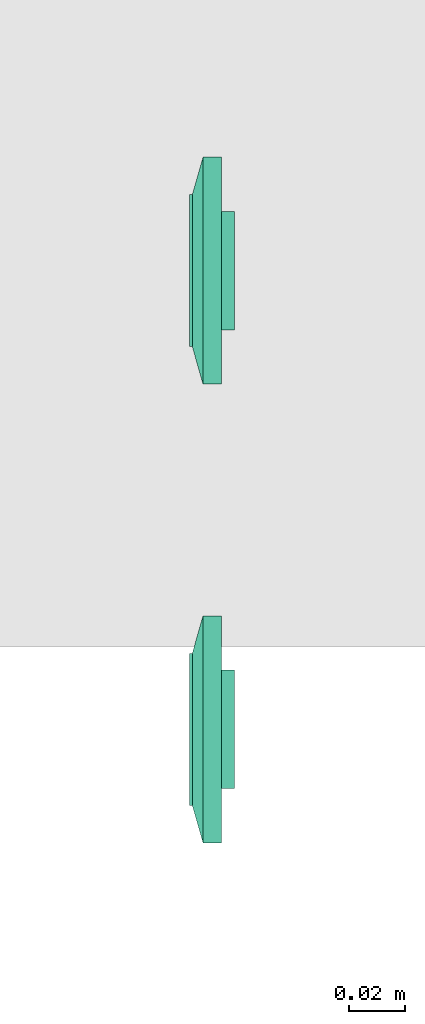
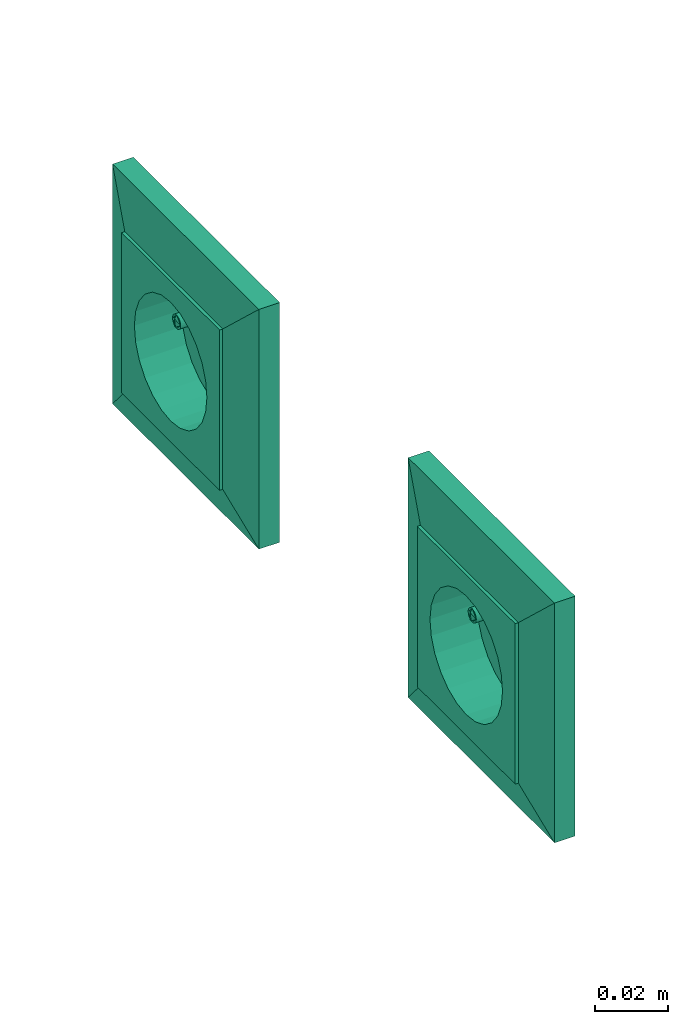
# One storey, part 37 of 146: 2 flow terminals.
"""IFC2X3 building model written with IfcOpenShell, lengths in metres."""

import ifcopenshell
import ifcopenshell.guid

model = None  # the IFC model being written
_history = None  # IfcOwnerHistory: only IFC2X3 demands one
_inside = {}  # id of a spatial element -> (the spatial element, [elements in it])
_under = {}  # id of a project, library or spatial element -> (it, [spatial elements below it])
_declared = {}  # id of a project -> (the project, [libraries it declares])
_typed = {}  # id of a type object -> (the type object, [elements of that type])
_made_of = {}  # id of a material, layer set ... -> (it, [elements and type objects made of it])


def new_model(schema):
    """Start an empty IFC model of exactly this schema.

    Asked for "IFC4X3", IfcOpenShell would pick the latest addendum, in which some entities
    have other attributes; the version numbers below select the first issue.
    IFC2X3 requires an IfcOwnerHistory on every rooted entity: one is made here for all.
    """
    global model, _history
    if schema == "IFC4X3":
        model = ifcopenshell.file(schema_version=(4, 3, 0, 0))
    else:
        model = ifcopenshell.file(schema=schema)
    _inside.clear()
    _under.clear()
    _declared.clear()
    _typed.clear()
    _made_of.clear()
    _history = None
    if model.schema == "IFC2X3":
        org = make("IfcOrganization", Name="unknown")
        user = make(
            "IfcPersonAndOrganization",
            ThePerson=make("IfcPerson", FamilyName="unknown"),
            TheOrganization=org,
        )
        app = make(
            "IfcApplication",
            ApplicationDeveloper=org,
            Version="unknown",
            ApplicationFullName="unknown",
            ApplicationIdentifier="unknown",
        )
        _history = make(
            "IfcOwnerHistory",
            OwningUser=user,
            OwningApplication=app,
            ChangeAction="ADDED",
            CreationDate=0,
        )
    return model


def make(cls, **values):
    """One entity of the class cls with the attributes given. An attribute that is None is left unset."""
    return model.create_entity(
        cls, **{name: value for name, value in values.items() if value is not None}
    )


def entity(cls, *values):
    """Any entity or typed value of the class cls, its attributes in the order of the schema. None: left unset."""
    e = model.create_entity(cls)
    for i, value in enumerate(values):
        if value is not None:
            e[i] = value
    return e


def rooted(cls, **values):
    """An entity with a GlobalId (a new one), such as an element, a storey or a relation."""
    return make(cls, GlobalId=ifcopenshell.guid.new(), OwnerHistory=_history, **values)


def si_unit(unit_type, name, prefix=None):
    """IfcSIUnit, for example si_unit("LENGTHUNIT", "METRE", prefix="MILLI")."""
    return make("IfcSIUnit", UnitType=unit_type, Prefix=prefix, Name=name)


def converted_unit(unit_type, name, factor, base, dimensions=None, offset=None):
    """IfcConversionBasedUnit, such as the inch: factor (a typed value) times the base unit."""
    return make(
        "IfcConversionBasedUnit"
        if offset is None
        else "IfcConversionBasedUnitWithOffset",
        ConversionOffset=offset,
        Dimensions=None
        if dimensions is None
        else entity("IfcDimensionalExponents", *dimensions),
        UnitType=unit_type,
        Name=name,
        ConversionFactor=make(
            "IfcMeasureWithUnit", ValueComponent=factor, UnitComponent=base
        ),
    )


def derived_unit(unit_type, elements):
    """IfcDerivedUnit: a product of units, each with its exponent."""
    return make(
        "IfcDerivedUnit",
        Elements=[
            make("IfcDerivedUnitElement", Unit=unit, Exponent=power)
            for unit, power in elements
        ],
        UnitType=unit_type,
    )


def assignment(units):
    """IfcUnitAssignment: the units of a project."""
    return None if units is None else make("IfcUnitAssignment", Units=units)


def point(xyz):
    """IfcCartesianPoint."""
    return None if xyz is None else make("IfcCartesianPoint", Coordinates=xyz)


def direction(xyz):
    """IfcDirection."""
    return None if xyz is None else make("IfcDirection", DirectionRatios=xyz)


def frame(location, z_axis=None, x_axis=None):
    """IfcAxis2Placement3D, a coordinate frame: its origin and axes. An axis left out is left unset."""
    return make(
        "IfcAxis2Placement3D",
        Location=point(location),
        Axis=direction(z_axis),
        RefDirection=direction(x_axis),
    )


def origin():
    """The frame at (0, 0, 0) with its axes left unset."""
    return frame((0.0, 0.0, 0.0))


def place(relative_to, where):
    """IfcLocalPlacement: puts the frame where relative to a parent placement (None: the world)."""
    return make(
        "IfcLocalPlacement", PlacementRelTo=relative_to, RelativePlacement=where
    )


def context(
    kind, dimensions, precision=None, world=None, true_north=None, identifier=None
):
    """IfcGeometricRepresentationContext, for example the 3D "Model" context."""
    return make(
        "IfcGeometricRepresentationContext",
        ContextIdentifier=identifier,
        ContextType=kind,
        CoordinateSpaceDimension=dimensions,
        Precision=precision,
        WorldCoordinateSystem=world,
        TrueNorth=true_north,
    )


def subcontext(parent, identifier, kind, view, scale=None):
    """IfcGeometricRepresentationSubContext, for example "Body" below "Model"."""
    return make(
        "IfcGeometricRepresentationSubContext",
        ContextIdentifier=identifier,
        ContextType=kind,
        ParentContext=parent,
        TargetScale=scale,
        TargetView=view,
    )


def project(units=None, contexts=None):
    """IfcProject with its units and contexts."""
    return rooted(
        "IfcProject",
        Name="project",
        RepresentationContexts=contexts,
        UnitsInContext=assignment(units),
    )


def spatial(cls, under=None, at=None, **own):
    """A site, building, storey or space (cls), placed at a placement, below another one or the project."""
    s = rooted(cls, ObjectPlacement=at, **own)
    if under is not None:
        _under.setdefault(under.id(), (under, []))[1].append(s)
    return s


def faces_of(points, faces, orient=None, outer=None):
    """IfcFace entities. A face is a list of loops; a loop is a list of indices into points, from 0.

    orient and outer hold one flag for each loop. By default every Orientation is true, the
    first loop of a face is its IfcFaceOuterBound and the others are IfcFaceBound.
    """
    made = []
    for i, loops in enumerate(faces):
        bounds = []
        for j, loop in enumerate(loops):
            is_outer = j == 0 if outer is None else outer[i][j]
            bounds.append(
                make(
                    "IfcFaceOuterBound" if is_outer else "IfcFaceBound",
                    Bound=make("IfcPolyLoop", Polygon=[points[k] for k in loop]),
                    Orientation=True if orient is None else orient[i][j],
                )
            )
        made.append(make("IfcFace", Bounds=bounds))
    return made


def face_set(faces, orient=None, outer=None):
    """The faces of one IfcConnectedFaceSet. surface_model builds it on its shared points."""
    return ("IfcConnectedFaceSet", faces, orient, outer)


def surface_model(cls, points, shells):
    """IfcFaceBasedSurfaceModel or IfcShellBasedSurfaceModel (cls): surfaces that need not close."""
    shared = [point(p) for p in points]
    made = [make(c, CfsFaces=faces_of(shared, fs, o, b)) for c, fs, o, b in shells]
    if cls == "IfcFaceBasedSurfaceModel":
        return make(cls, FbsmFaces=made)
    return make(cls, SbsmBoundary=made)


def shape(context_of_items, identifier, shape_type, items):
    """IfcShapeRepresentation: the items that make up one representation, for example the "Body"."""
    return make(
        "IfcShapeRepresentation",
        ContextOfItems=context_of_items,
        RepresentationIdentifier=identifier,
        RepresentationType=shape_type,
        Items=items,
    )


def source(mapping_origin, context_of_items, identifier, shape_type, items):
    """IfcRepresentationMap: a shape defined once, which mapped items show again and again."""
    return make(
        "IfcRepresentationMap",
        MappingOrigin=mapping_origin,
        MappedRepresentation=shape(context_of_items, identifier, shape_type, items),
    )


def transform(
    local_origin,
    x_axis=None,
    y_axis=None,
    z_axis=None,
    scale=None,
    scale2=None,
    scale3=None,
    uniform=True,
):
    """IfcCartesianTransformationOperator3D, or its non-uniform kind. x_axis, y_axis, z_axis: its Axis1, 2, 3."""
    if uniform:
        return make(
            "IfcCartesianTransformationOperator3D",
            Axis1=direction(x_axis),
            Axis2=direction(y_axis),
            LocalOrigin=point(local_origin),
            Scale=scale,
            Axis3=direction(z_axis),
        )
    return make(
        "IfcCartesianTransformationOperator3DnonUniform",
        Axis1=direction(x_axis),
        Axis2=direction(y_axis),
        LocalOrigin=point(local_origin),
        Scale=scale,
        Axis3=direction(z_axis),
        Scale2=scale2,
        Scale3=scale3,
    )


def mapped(mapping_source, mapping_target):
    """IfcMappedItem: shows the shape of a source again, moved by a transform."""
    return make(
        "IfcMappedItem", MappingSource=mapping_source, MappingTarget=mapping_target
    )


def made_of(thing, what):
    """Note that an element or type object is made of a material, layer set ...; save() writes the relation."""
    if what is not None:
        _made_of.setdefault(what.id(), (what, []))[1].append(thing)
    return thing


def type_object(cls, material=None, **own):
    """A type object (cls), such as IfcWallType, which elements share."""
    return made_of(rooted(cls, **own), material)


def type_shapes(of_type, sources):
    """Give a type object the sources (RepresentationMaps) that its elements show as mapped items."""
    of_type.RepresentationMaps = sources


def element(
    cls,
    number,
    at=None,
    inside=None,
    cuts=None,
    type_object=None,
    material=None,
    context=None,
    identifier="Body",
    shape_type=None,
    held_by="IfcProductDefinitionShape",
    body=None,
    shapes=None,
    **own,
):
    """One element of the class cls, such as IfcWall. Its Tag is "e" and its number.

    at: its placement. inside: the storey or other place that contains it. cuts: it is an
    opening in that element (IfcRelVoidsElement). A single representation is given by context,
    identifier, shape_type and body (its items); several are given by shapes. held_by: the class
    of the entity that holds the representations. save() writes the other relations.
    """
    e = rooted(cls, Tag="e%d" % number, ObjectPlacement=at, **own)
    if body is not None:
        shapes = [shape(context, identifier, shape_type, body)]
    if shapes is not None:
        e.Representation = make(held_by, Representations=shapes)
    if inside is not None:
        _inside.setdefault(inside.id(), (inside, []))[1].append(e)
    if cuts is not None:
        rooted(
            "IfcRelVoidsElement", RelatingBuildingElement=cuts, RelatedOpeningElement=e
        )
    if type_object is not None:
        _typed.setdefault(type_object.id(), (type_object, []))[1].append(e)
    return made_of(e, material)


def aggregate(whole, parts):
    """IfcRelAggregates: a whole, such as a stair, and the parts it consists of."""
    return rooted("IfcRelAggregates", RelatingObject=whole, RelatedObjects=parts)


def save(model, path):
    """Write the relations noted so far, then the file.

    IfcRelAggregates (storeys below a building ...), IfcRelContainedInSpatialStructure (elements
    in a storey), IfcRelDefinesByType, IfcRelAssociatesMaterial and IfcRelDeclares: one each for
    every whole, place, type object, material and project.
    """
    for whole, parts in _under.values():
        aggregate(whole, parts)
    for where, things in _inside.values():
        rooted(
            "IfcRelContainedInSpatialStructure",
            RelatedElements=things,
            RelatingStructure=where,
        )
    for kind, things in _typed.values():
        rooted("IfcRelDefinesByType", RelatedObjects=things, RelatingType=kind)
    for what, things in _made_of.values():
        rooted("IfcRelAssociatesMaterial", RelatedObjects=things, RelatingMaterial=what)
    for by, libraries in _declared.values():
        rooted("IfcRelDeclares", RelatingContext=by, RelatedDefinitions=libraries)
    model.write(path)


model = new_model("IFC2X3")

# Units and contexts
model_context = context("Model", 3, precision=1e-05, world=origin(), true_north=direction((6.12303176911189e-17, 1.0)))
body_context = subcontext(model_context, "Body", "Model", "MODEL_VIEW")
ifc_project = project(units=[si_unit("LENGTHUNIT", "METRE"), si_unit("AREAUNIT", "SQUARE_METRE"), si_unit("VOLUMEUNIT", "CUBIC_METRE"), converted_unit("PLANEANGLEUNIT", "DEGREE", entity("IfcRatioMeasure", 0.0174532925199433), si_unit("PLANEANGLEUNIT", "RADIAN"), dimensions=[0, 0, 0, 0, 0, 0, 0]), si_unit("MASSUNIT", "GRAM", prefix="KILO"), derived_unit("MASSDENSITYUNIT", [(si_unit("MASSUNIT", "GRAM", prefix="KILO"), 1), (si_unit("LENGTHUNIT", "METRE"), -3)]), si_unit("TIMEUNIT", "SECOND"), si_unit("FREQUENCYUNIT", "HERTZ"), si_unit("THERMODYNAMICTEMPERATUREUNIT", "DEGREE_CELSIUS"), derived_unit("THERMALTRANSMITTANCEUNIT", [(si_unit("MASSUNIT", "GRAM", prefix="KILO"), 1), (si_unit("THERMODYNAMICTEMPERATUREUNIT", "KELVIN"), -1), (si_unit("TIMEUNIT", "SECOND"), -3)]), derived_unit("VOLUMETRICFLOWRATEUNIT", [(si_unit("LENGTHUNIT", "METRE"), 3), (si_unit("TIMEUNIT", "SECOND"), -1)]), si_unit("ELECTRICCURRENTUNIT", "AMPERE"), si_unit("ELECTRICVOLTAGEUNIT", "VOLT"), si_unit("POWERUNIT", "WATT"), si_unit("FORCEUNIT", "NEWTON"), si_unit("ILLUMINANCEUNIT", "LUX"), si_unit("LUMINOUSFLUXUNIT", "LUMEN"), si_unit("LUMINOUSINTENSITYUNIT", "CANDELA"), derived_unit("USERDEFINED", [(si_unit("MASSUNIT", "GRAM", prefix="KILO"), -1), (si_unit("LENGTHUNIT", "METRE"), -2), (si_unit("TIMEUNIT", "SECOND"), 3), (si_unit("LUMINOUSFLUXUNIT", "LUMEN"), 1)]), derived_unit("LINEARVELOCITYUNIT", [(si_unit("LENGTHUNIT", "METRE"), 1), (si_unit("TIMEUNIT", "SECOND"), -1)]), si_unit("PRESSUREUNIT", "PASCAL"), derived_unit("USERDEFINED", [(si_unit("LENGTHUNIT", "METRE"), -2), (si_unit("MASSUNIT", "GRAM", prefix="KILO"), 1), (si_unit("TIMEUNIT", "SECOND"), -2)])], contexts=[model_context])

# Site, building, storey
site_placement = place(None, origin())
site = spatial("IfcSite", under=ifc_project, at=site_placement, Name="Default", CompositionType="ELEMENT")
building_placement = place(site_placement, origin())
building = spatial("IfcBuilding", under=site, at=building_placement, CompositionType="ELEMENT")
storey_placement = place(building_placement, origin())
storey = spatial("IfcBuildingStorey", under=building, at=storey_placement, Name="S01", CompositionType="ELEMENT", Elevation=0.0)

# Flow terminals
light_fixture_type = type_object("IfcLightFixtureType", Name="IP20 ONDULEE", PredefinedType="NOTDEFINED")
shared_shape = source(origin(), body_context, "Body", "SurfaceModel", [
    surface_model("IfcFaceBasedSurfaceModel", [(-0.00225000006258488, 0.0127499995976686, 0.00949633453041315), (0.0, 0.0104999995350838, 0.00949633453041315), (0.0, 0.0115376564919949, 0.0101656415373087), (0.0, 0.0139623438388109, 0.0101656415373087), (0.0, 0.0144589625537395, 0.00984531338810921), (0.0, 0.0121178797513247, 0.0102778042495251), (0.0, 0.0133821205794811, 0.0102778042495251), (0.0, 0.0127499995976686, 0.010399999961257), (0.0, 0.0149999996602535, 0.00949633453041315), (0.00225000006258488, 0.0127499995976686, 0.00949633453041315), (0.0, 0.0110410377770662, 0.00984531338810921), (0.0, 0.0127499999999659, 0.00949633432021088), (0.00225000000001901, 0.0127499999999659, 0.00949633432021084), (0.00217333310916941, 0.0121676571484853, 0.00949633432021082), (0.00194855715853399, 0.0116249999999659, 0.00949633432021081), (0.00159099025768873, 0.0111590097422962, 0.00949633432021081), (0.001125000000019, 0.010801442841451, 0.00949633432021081), (0.00058234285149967, 0.0105766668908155, 0.00949633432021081), (0.0, 0.0104999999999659, 0.00949633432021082), (-0.000582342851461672, 0.0105766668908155, 0.00949633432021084), (-0.001124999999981, 0.010801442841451, 0.00949633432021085), (-0.00159099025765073, 0.0111590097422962, 0.00949633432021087), (-0.00194855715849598, 0.011624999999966, 0.00949633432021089), (-0.0021733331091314, 0.0121676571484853, 0.00949633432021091), (-0.00224999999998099, 0.012749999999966, 0.00949633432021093), (-0.00217333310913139, 0.0133323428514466, 0.00949633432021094), (-0.00194855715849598, 0.013874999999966, 0.00949633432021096), (-0.00159099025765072, 0.0143409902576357, 0.00949633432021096), (-0.00112499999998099, 0.0146985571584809, 0.00949633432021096), (-0.00058234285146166, 0.0149233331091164, 0.00949633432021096), (0.0, 0.0149999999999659, 0.00949633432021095), (0.000582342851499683, 0.0149233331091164, 0.00949633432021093), (0.00112500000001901, 0.0146985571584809, 0.00949633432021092), (0.00159099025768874, 0.0143409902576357, 0.00949633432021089), (0.001948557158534, 0.0138749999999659, 0.00949633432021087), (0.00217333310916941, 0.0133323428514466, 0.00949633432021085), (0.00225000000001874, 0.0127499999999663, -0.00360000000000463), (0.00217333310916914, 0.0121676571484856, -0.00360000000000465), (0.00194855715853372, 0.0116249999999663, -0.00360000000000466), (0.00159099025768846, 0.0111590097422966, -0.00360000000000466), (0.00112500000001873, 0.0108014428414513, -0.00360000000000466), (0.000582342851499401, 0.0105766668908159, -0.00360000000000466), (0.0, 0.0104999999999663, -0.00360000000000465), (-0.000582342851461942, 0.0105766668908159, -0.00360000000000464), (-0.00112499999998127, 0.0108014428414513, -0.00360000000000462), (-0.001590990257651, 0.0111590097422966, -0.0036000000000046), (-0.00194855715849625, 0.0116249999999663, -0.00360000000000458), (-0.00217333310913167, 0.0121676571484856, -0.00360000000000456), (-0.00224999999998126, 0.0127499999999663, -0.00360000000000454), (-0.00217333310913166, 0.013332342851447, -0.00360000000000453), (-0.00194855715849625, 0.0138749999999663, -0.00360000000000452), (-0.00159099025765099, 0.014340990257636, -0.00360000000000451), (-0.00112499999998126, 0.0146985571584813, -0.00360000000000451), (-0.000582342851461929, 0.0149233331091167, -0.00360000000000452), (0.0, 0.0149999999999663, -0.00360000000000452), (0.000582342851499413, 0.0149233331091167, -0.00360000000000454), (0.00112500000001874, 0.0146985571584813, -0.00360000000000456), (0.00159099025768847, 0.014340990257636, -0.00360000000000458), (0.00194855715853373, 0.0138749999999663, -0.0036000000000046), (0.00217333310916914, 0.013332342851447, -0.00360000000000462), (0.0270000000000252, 0.026999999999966, 0.0113999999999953), (-0.0269999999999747, 0.026999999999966, 0.0113999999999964), (-0.0269999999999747, -0.0270000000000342, 0.0113999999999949), (0.0270000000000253, -0.0270000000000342, 0.0113999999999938), (-0.0199999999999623, 0.0, 0.0113999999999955), (-0.0193185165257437, -0.00517638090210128, 0.0113999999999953), (-0.0173205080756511, -0.0100000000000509, 0.0113999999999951), (-0.0141421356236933, -0.0141421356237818, 0.011399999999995), (-0.00999999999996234, -0.0173205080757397, 0.0113999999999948), (-0.00517638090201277, -0.0193185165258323, 0.0113999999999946), (0.0, -0.0200000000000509, 0.0113999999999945), (0.00517638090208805, -0.0193185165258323, 0.0113999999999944), (0.0100000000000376, -0.0173205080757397, 0.0113999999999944), (0.0141421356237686, -0.0141421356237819, 0.0113999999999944), (0.0173205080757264, -0.010000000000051, 0.0113999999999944), (0.0193185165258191, -0.00517638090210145, 0.0113999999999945), (0.0200000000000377, 0.0, 0.0113999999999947), (0.0193185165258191, 0.00517638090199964, 0.0113999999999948), (0.0173205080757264, 0.0099999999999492, 0.011399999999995), (0.0141421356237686, 0.0141421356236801, 0.0113999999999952), (0.0100000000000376, 0.0173205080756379, 0.0113999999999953), (0.00517638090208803, 0.0193185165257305, 0.0113999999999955), (0.0, 0.0199999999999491, 0.0113999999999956), (-0.00517638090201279, 0.0193185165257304, 0.0113999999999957), (-0.00999999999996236, 0.0173205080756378, 0.0113999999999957), (-0.0141421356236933, 0.01414213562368, 0.0113999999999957), (-0.0173205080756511, 0.00999999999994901, 0.0113999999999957), (-0.0193185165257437, 0.00517638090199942, 0.0113999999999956), (0.0270000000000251, 0.0269999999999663, 0.00199999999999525), (0.0270000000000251, -0.0270000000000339, 0.00199999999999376), (-0.0269999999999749, -0.0270000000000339, 0.00199999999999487), (-0.0269999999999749, 0.0269999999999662, 0.00199999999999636), (0.0210000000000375, 0.0, 0.00199999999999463), (0.0202844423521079, -0.00543519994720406, 0.00199999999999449), (0.0181865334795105, -0.0105000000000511, 0.0019999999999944), (0.0148492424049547, -0.0148492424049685, 0.00199999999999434), (0.0105000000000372, -0.0181865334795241, 0.00199999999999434), (0.0054351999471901, -0.0202844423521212, 0.00199999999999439), (0.0, -0.0210000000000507, 0.00199999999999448), (-0.00543519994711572, -0.020284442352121, 0.00199999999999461), (-0.0104999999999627, -0.0181865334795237, 0.00199999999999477), (-0.0148492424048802, -0.014849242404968, 0.00199999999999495), (-0.0181865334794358, -0.0105000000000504, 0.00199999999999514), (-0.020284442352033, -0.00543519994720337, 0.00199999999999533), (-0.0209999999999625, 0.0, 0.00199999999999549), (-0.0202844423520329, 0.0054351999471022, 0.00199999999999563), (-0.0181865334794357, 0.0104999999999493, 0.00199999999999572), (-0.01484924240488, 0.0148492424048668, 0.00199999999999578), (-0.0104999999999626, 0.0181865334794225, 0.00199999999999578), (-0.00543519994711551, 0.0202844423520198, 0.00199999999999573), (0.0, 0.0209999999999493, 0.00199999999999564), (0.00543519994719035, 0.0202844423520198, 0.00199999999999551), (0.0105000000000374, 0.0181865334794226, 0.00199999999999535), (0.0148492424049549, 0.0148492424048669, 0.00199999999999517), (0.0181865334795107, 0.0104999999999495, 0.00199999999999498), (0.0202844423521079, 0.00543519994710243, 0.00199999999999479), (0.0200000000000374, 0.0, -0.00360000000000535), (0.0193185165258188, -0.00517638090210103, -0.00360000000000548), (0.0173205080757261, -0.0100000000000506, -0.00360000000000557), (0.0141421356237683, -0.0141421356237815, -0.00360000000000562), (0.0100000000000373, -0.0173205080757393, -0.00360000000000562), (0.00517638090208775, -0.0193185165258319, -0.00360000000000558), (0.0, -0.0200000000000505, -0.00360000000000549), (-0.00517638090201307, -0.0193185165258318, -0.00360000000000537), (-0.00999999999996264, -0.0173205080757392, -0.00360000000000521), (-0.0141421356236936, -0.0141421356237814, -0.00360000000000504), (-0.0173205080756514, -0.0100000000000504, -0.00360000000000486), (-0.019318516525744, -0.00517638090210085, -0.00360000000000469), (-0.0199999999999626, 0.0, -0.00360000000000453), (-0.0193185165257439, 0.00517638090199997, -0.0036000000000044), (-0.0173205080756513, 0.00999999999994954, -0.00360000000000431), (-0.0141421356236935, 0.0141421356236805, -0.00360000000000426), (-0.00999999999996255, 0.0173205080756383, -0.00360000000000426), (-0.00517638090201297, 0.0193185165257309, -0.0036000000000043), (0.0, 0.0199999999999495, -0.00360000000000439), (0.00517638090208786, 0.0193185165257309, -0.00360000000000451), (0.0100000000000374, 0.0173205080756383, -0.00360000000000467), (0.0141421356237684, 0.0141421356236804, -0.00360000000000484), (0.0173205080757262, 0.0099999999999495, -0.00360000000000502), (0.0193185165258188, 0.00517638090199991, -0.00360000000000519), (-0.0123499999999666, 0.0, -0.00360000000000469), (-0.0122562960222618, -0.000711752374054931, -0.00360000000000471), (-0.0119815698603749, -0.00137500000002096, -0.00360000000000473), (-0.0115445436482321, -0.00194454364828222, -0.00360000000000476), (-0.0109749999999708, -0.00238156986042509, -0.00360000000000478), (-0.0103117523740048, -0.00265629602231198, -0.0036000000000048), (-0.00959999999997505, -0.00275000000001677, -0.00360000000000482), (-0.0088882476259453, -0.00265629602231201, -0.00360000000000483), (-0.00822499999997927, -0.00238156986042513, -0.00360000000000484), (-0.00765545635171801, -0.00194454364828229, -0.00360000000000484), (-0.00721843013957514, -0.00137500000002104, -0.00360000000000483), (-0.00694370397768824, -0.000711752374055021, -0.00360000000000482), (-0.00684999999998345, 0.0, -0.0036000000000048), (-0.00694370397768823, 0.000711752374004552, -0.00360000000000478), (-0.00721843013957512, 0.00137499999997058, -0.00360000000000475), (-0.00765545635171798, 0.00194454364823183, -0.00360000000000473), (-0.00822499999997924, 0.00238156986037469, -0.0036000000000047), (-0.00888824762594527, 0.00265629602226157, -0.00360000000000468), (-0.00959999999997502, 0.00274999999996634, -0.00360000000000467), (-0.0103117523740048, 0.00265629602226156, -0.00360000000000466), (-0.0109749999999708, 0.00238156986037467, -0.00360000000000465), (-0.011544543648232, 0.00194454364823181, -0.00360000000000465), (-0.0119815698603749, 0.00137499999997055, -0.00360000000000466), (-0.0122562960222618, 0.000711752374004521, -0.00360000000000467), (0.00685000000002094, 0.0, -0.00360000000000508), (0.0069437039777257, -0.00071175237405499, -0.0036000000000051), (0.00721843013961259, -0.00137500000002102, -0.00360000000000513), (0.00765545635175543, -0.00194454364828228, -0.00360000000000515), (0.00822500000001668, -0.00238156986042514, -0.00360000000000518), (0.00888824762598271, -0.00265629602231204, -0.0036000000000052), (0.00960000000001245, -0.00275000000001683, -0.00360000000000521), (0.0103117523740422, -0.00265629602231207, -0.00360000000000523), (0.0109750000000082, -0.00238156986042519, -0.00360000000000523), (0.0115445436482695, -0.00194454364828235, -0.00360000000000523), (0.0119815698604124, -0.0013750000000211, -0.00360000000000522), (0.0122562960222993, -0.00071175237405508, -0.00360000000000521), (0.012350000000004, 0.0, -0.00360000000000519), (0.0122562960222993, 0.000711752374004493, -0.00360000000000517), (0.0119815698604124, 0.00137499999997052, -0.00360000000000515), (0.0115445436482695, 0.00194454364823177, -0.00360000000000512), (0.0109750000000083, 0.00238156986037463, -0.0036000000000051), (0.0103117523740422, 0.00265629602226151, -0.00360000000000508), (0.00960000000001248, 0.00274999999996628, -0.00360000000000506), (0.00888824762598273, 0.0026562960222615, -0.00360000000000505), (0.0082250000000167, 0.00238156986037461, -0.00360000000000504), (0.00765545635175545, 0.00194454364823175, -0.00360000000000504), (0.0072184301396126, 0.00137499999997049, -0.00360000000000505), (0.00694370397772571, 0.000711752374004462, -0.00360000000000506), (0.0210000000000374, 0.0, -0.00460000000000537), (0.0202844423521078, -0.00543519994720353, -0.00460000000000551), (0.0181865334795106, -0.0105000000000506, -0.0046000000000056), (0.0148492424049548, -0.0148492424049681, -0.00460000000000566), (0.0105000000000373, -0.0181865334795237, -0.00460000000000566), (0.00543519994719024, -0.0202844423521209, -0.00460000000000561), (0.0, -0.0210000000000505, -0.00460000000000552), (-0.00543519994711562, -0.0202844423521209, -0.00460000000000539), (-0.0104999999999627, -0.0181865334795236, -0.00460000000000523), (-0.0148492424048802, -0.0148492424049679, -0.00460000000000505), (-0.0181865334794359, -0.0105000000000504, -0.00460000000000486), (-0.0202844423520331, -0.00543519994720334, -0.00460000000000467), (-0.0209999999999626, 0.0, -0.00460000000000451), (-0.020284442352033, 0.00543519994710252, -0.00460000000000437), (-0.0181865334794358, 0.0104999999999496, -0.00460000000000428), (-0.0148492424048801, 0.0148492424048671, -0.00460000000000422), (-0.0104999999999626, 0.0181865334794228, -0.00460000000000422), (-0.00543519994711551, 0.02028444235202, -0.00460000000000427), (0.0, 0.0209999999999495, -0.00460000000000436), (0.00543519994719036, 0.02028444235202, -0.00460000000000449), (0.0105000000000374, 0.0181865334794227, -0.00460000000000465), (0.0148492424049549, 0.014849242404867, -0.00460000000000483), (0.0181865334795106, 0.0104999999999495, -0.00460000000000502), (0.0202844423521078, 0.00543519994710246, -0.00460000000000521), (-0.00684999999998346, 0.0, -0.0046000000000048), (-0.00694370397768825, 0.000711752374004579, -0.00460000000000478), (-0.00721843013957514, 0.00137499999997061, -0.00460000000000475), (-0.007655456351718, 0.00194454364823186, -0.00460000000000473), (-0.00822499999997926, 0.00238156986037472, -0.0046000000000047), (-0.00888824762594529, 0.0026562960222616, -0.00460000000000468), (-0.00959999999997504, 0.00274999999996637, -0.00460000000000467), (-0.0103117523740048, 0.00265629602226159, -0.00460000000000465), (-0.0109749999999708, 0.0023815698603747, -0.00460000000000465), (-0.0115445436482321, 0.00194454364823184, -0.00460000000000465), (-0.0119815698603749, 0.00137499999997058, -0.00460000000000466), (-0.0122562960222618, 0.000711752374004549, -0.00460000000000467), (-0.0123499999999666, 0.0, -0.00460000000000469), (-0.0122562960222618, -0.000711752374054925, -0.00460000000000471), (-0.0119815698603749, -0.00137500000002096, -0.00460000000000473), (-0.0115445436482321, -0.00194454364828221, -0.00460000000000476), (-0.0109749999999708, -0.00238156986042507, -0.00460000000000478), (-0.0103117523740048, -0.00265629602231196, -0.0046000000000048), (-0.00959999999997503, -0.00275000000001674, -0.00460000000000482), (-0.00888824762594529, -0.00265629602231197, -0.00460000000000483), (-0.00822499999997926, -0.00238156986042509, -0.00460000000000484), (-0.007655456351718, -0.00194454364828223, -0.00460000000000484), (-0.00721843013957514, -0.00137500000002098, -0.00460000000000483), (-0.00694370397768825, -0.000711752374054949, -0.00460000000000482), (0.012350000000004, 0.0, -0.00460000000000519), (0.0122562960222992, 0.000711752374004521, -0.00460000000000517), (0.0119815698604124, 0.00137499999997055, -0.00460000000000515), (0.0115445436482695, 0.0019445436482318, -0.00460000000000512), (0.0109750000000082, 0.00238156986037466, -0.0046000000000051), (0.0103117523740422, 0.00265629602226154, -0.00460000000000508), (0.00960000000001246, 0.00274999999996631, -0.00460000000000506), (0.00888824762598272, 0.00265629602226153, -0.00460000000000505), (0.00822500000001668, 0.00238156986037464, -0.00460000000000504), (0.00765545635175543, 0.00194454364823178, -0.00460000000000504), (0.00721843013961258, 0.00137499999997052, -0.00460000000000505), (0.00694370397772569, 0.00071175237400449, -0.00460000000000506), (0.00685000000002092, 0.0, -0.00460000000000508), (0.00694370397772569, -0.000711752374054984, -0.0046000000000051), (0.00721843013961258, -0.00137500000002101, -0.00460000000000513), (0.00765545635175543, -0.00194454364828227, -0.00460000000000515), (0.00822500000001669, -0.00238156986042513, -0.00460000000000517), (0.00888824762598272, -0.00265629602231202, -0.0046000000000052), (0.00960000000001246, -0.0027500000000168, -0.00460000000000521), (0.0103117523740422, -0.00265629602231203, -0.00460000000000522), (0.0109750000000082, -0.00238156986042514, -0.00460000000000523), (0.0115445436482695, -0.00194454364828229, -0.00460000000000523), (0.0119815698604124, -0.00137500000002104, -0.00460000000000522), (0.0122562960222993, -0.000711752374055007, -0.00460000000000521), (0.040350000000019, 0.0403499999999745, 0.00659999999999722), (0.040350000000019, -0.0403500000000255, 0.00659999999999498), (-0.0403499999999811, -0.0403500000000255, 0.00659999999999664), (-0.0403499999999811, 0.0403499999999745, 0.00659999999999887), (0.027000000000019, 0.0269999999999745, 0.00659999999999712), (-0.0269999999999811, 0.0269999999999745, 0.00659999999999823), (-0.026999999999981, -0.0270000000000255, 0.00659999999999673), (0.027000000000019, -0.0270000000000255, 0.00659999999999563), (0.027000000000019, 0.0269999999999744, 0.0103999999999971), (-0.026999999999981, 0.0269999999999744, 0.0103999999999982), (-0.026999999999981, -0.0270000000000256, 0.0103999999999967), (0.027000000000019, -0.0270000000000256, 0.0103999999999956), (0.040350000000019, 0.0403499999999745, 0.00659999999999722), (0.040350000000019, -0.0403500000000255, 0.00659999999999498), (-0.0403499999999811, -0.0403500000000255, 0.00659999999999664), (-0.0403499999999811, 0.0403499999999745, 0.00659999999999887), (-0.0269999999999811, 0.0269999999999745, 0.00659999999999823), (-0.0269999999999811, -0.0270000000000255, 0.00659999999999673), (0.0270000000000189, -0.0270000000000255, 0.00659999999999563), (0.0270000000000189, 0.0269999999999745, 0.00659999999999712), (0.0403500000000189, 0.0403499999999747, 0.0), (0.0403500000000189, -0.0403500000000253, 0.0), (-0.0403499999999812, -0.0403500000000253, 0.0), (-0.0403499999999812, 0.0403499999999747, 0.0), (0.0270000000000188, 0.0269999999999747, 0.0), (-0.0269999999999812, 0.0269999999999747, 0.0), (-0.0269999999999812, -0.0270000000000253, 0.0), (0.0270000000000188, -0.0270000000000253, 0.0)], [face_set([[[0, 1, 2]], [[3, 4, 2, 5]], [[6, 3, 5, 7]], [[2, 4, 0]], [[4, 8, 0]], [[3, 9, 8]], [[1, 9, 10]], [[2, 3, 6, 7]], [[3, 10, 9]], [[2, 10, 3]], [[11, 1, 0, 8]], [[11, 8, 9, 1]]]), face_set([[[12, 13, 14, 15, 16, 17, 18, 19, 20, 21, 22, 23, 24, 25, 26, 27, 28, 29, 30, 31, 32, 33, 34, 35]], [[36, 37, 38, 39, 40, 41, 42, 43, 44, 45, 46, 47, 48, 49, 50, 51, 52, 53, 54, 55, 56, 57, 58, 59]], [[48, 47, 23, 24]], [[47, 46, 22, 23]], [[45, 44, 20, 21]], [[46, 45, 21, 22]], [[44, 43, 19, 20]], [[18, 19, 43, 42]], [[42, 41, 17, 18]], [[41, 40, 16, 17]], [[39, 38, 14, 15]], [[40, 39, 15, 16]], [[38, 37, 13, 14]], [[12, 13, 37, 36]], [[36, 59, 35, 12]], [[59, 58, 34, 35]], [[57, 56, 32, 33]], [[58, 57, 33, 34]], [[56, 55, 31, 32]], [[30, 31, 55, 54]], [[54, 53, 29, 30]], [[53, 52, 28, 29]], [[51, 50, 26, 27]], [[52, 51, 27, 28]], [[50, 49, 25, 26]], [[24, 25, 49, 48]]]), face_set([[[60, 61, 62, 63], [64, 65, 66, 67, 68, 69, 70, 71, 72, 73, 74, 75, 76, 77, 78, 79, 80, 81, 82, 83, 84, 85, 86, 87]], [[88, 89, 90, 91], [92, 93, 94, 95, 96, 97, 98, 99, 100, 101, 102, 103, 104, 105, 106, 107, 108, 109, 110, 111, 112, 113, 114, 115]], [[61, 60, 88, 91]], [[62, 61, 91, 90]], [[63, 62, 90, 89]], [[60, 63, 89, 88]], [[116, 117, 118, 119, 120, 121, 122, 123, 124, 125, 126, 127, 128, 129, 130, 131, 132, 133, 134, 135, 136, 137, 138, 139], [140, 141, 142, 143, 144, 145, 146, 147, 148, 149, 150, 151, 152, 153, 154, 155, 156, 157, 158, 159, 160, 161, 162, 163], [164, 165, 166, 167, 168, 169, 170, 171, 172, 173, 174, 175, 176, 177, 178, 179, 180, 181, 182, 183, 184, 185, 186, 187]], [[64, 128, 127, 65]], [[65, 127, 126, 66]], [[67, 125, 124, 68]], [[66, 126, 125, 67]], [[68, 124, 123, 69]], [[122, 70, 69, 123]], [[70, 122, 121, 71]], [[71, 121, 120, 72]], [[73, 119, 118, 74]], [[72, 120, 119, 73]], [[74, 118, 117, 75]], [[116, 76, 75, 117]], [[76, 116, 139, 77]], [[77, 139, 138, 78]], [[79, 137, 136, 80]], [[78, 138, 137, 79]], [[80, 136, 135, 81]], [[134, 82, 81, 135]], [[82, 134, 133, 83]], [[83, 133, 132, 84]], [[84, 132, 131, 85]], [[85, 131, 130, 86]], [[130, 129, 87, 86]], [[64, 87, 129, 128]], [[188, 189, 190, 191, 192, 193, 194, 195, 196, 197, 198, 199, 200, 201, 202, 203, 204, 205, 206, 207, 208, 209, 210, 211], [212, 213, 214, 215, 216, 217, 218, 219, 220, 221, 222, 223, 224, 225, 226, 227, 228, 229, 230, 231, 232, 233, 234, 235], [236, 237, 238, 239, 240, 241, 242, 243, 244, 245, 246, 247, 248, 249, 250, 251, 252, 253, 254, 255, 256, 257, 258, 259]], [[200, 199, 103, 104]], [[199, 198, 102, 103]], [[197, 196, 100, 101]], [[198, 197, 101, 102]], [[196, 195, 99, 100]], [[98, 99, 195, 194]], [[194, 193, 97, 98]], [[193, 192, 96, 97]], [[191, 190, 94, 95]], [[192, 191, 95, 96]], [[190, 189, 93, 94]], [[92, 93, 189, 188]], [[188, 211, 115, 92]], [[211, 210, 114, 115]], [[209, 208, 112, 113]], [[210, 209, 113, 114]], [[208, 207, 111, 112]], [[110, 111, 207, 206]], [[206, 205, 109, 110]], [[205, 204, 108, 109]], [[203, 202, 106, 107]], [[204, 203, 107, 108]], [[202, 201, 105, 106]], [[104, 105, 201, 200]], [[141, 225, 226, 142]], [[140, 224, 225, 141]], [[144, 228, 229, 145]], [[143, 227, 228, 144]], [[142, 226, 227, 143]], [[230, 146, 145, 229]], [[149, 233, 232, 148]], [[148, 232, 231, 147]], [[152, 212, 235, 151]], [[151, 235, 234, 150]], [[150, 234, 233, 149]], [[146, 230, 231, 147]], [[154, 214, 213, 153]], [[153, 213, 212, 152]], [[157, 217, 216, 156]], [[156, 216, 215, 155]], [[155, 215, 214, 154]], [[218, 158, 157, 217]], [[160, 220, 221, 161]], [[159, 219, 220, 160]], [[163, 223, 224, 140]], [[162, 222, 223, 163]], [[161, 221, 222, 162]], [[158, 218, 219, 159]], [[166, 250, 249, 165]], [[165, 249, 248, 164]], [[169, 253, 252, 168]], [[168, 252, 251, 167]], [[167, 251, 250, 166]], [[254, 170, 169, 253]], [[172, 256, 257, 173]], [[171, 255, 256, 172]], [[175, 259, 236, 176]], [[174, 258, 259, 175]], [[173, 257, 258, 174]], [[170, 254, 255, 171]], [[177, 237, 238, 178]], [[176, 236, 237, 177]], [[180, 240, 241, 181]], [[179, 239, 240, 180]], [[178, 238, 239, 179]], [[242, 182, 181, 241]], [[185, 245, 244, 184]], [[184, 244, 243, 183]], [[164, 248, 247, 187]], [[187, 247, 246, 186]], [[186, 246, 245, 185]], [[182, 242, 243, 183]]]), face_set([[[260, 261, 262, 263], [264, 265, 266, 267]], [[260, 268, 269, 263]], [[263, 269, 270, 262]], [[262, 270, 271, 261]], [[261, 271, 268, 260]], [[264, 265, 269, 268]], [[265, 266, 270, 269]], [[266, 267, 271, 270]], [[268, 271, 267, 264]]]), face_set([[[272, 273, 274, 275], [276, 277, 278, 279]], [[280, 281, 282, 283], [284, 285, 286, 287]], [[275, 272, 280, 283]], [[274, 275, 283, 282]], [[273, 274, 282, 281]], [[272, 273, 281, 280]], [[284, 285, 276, 279]], [[285, 286, 277, 276]], [[286, 287, 278, 277]], [[279, 278, 287, 284]]])]),
])
type_shapes(light_fixture_type, [shared_shape])
for number, where, z_axis, x_axis in (
    (1, (40.8031955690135, -188.106854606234, 0.320000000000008), (-1.0, 0.0, 0.0), (0.0, -1.0, 0.0)),
    (2, (40.8031955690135, -188.269854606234, 0.320000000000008), (-1.0, 0.0, 0.0), (0.0, -1.0, 0.0)),
):
    element("IfcFlowTerminal", number, at=place(storey_placement, frame(where, z_axis=z_axis, x_axis=x_axis)), inside=storey, type_object=light_fixture_type, Name="INT Prise de courant:IP20 ONDULEE", ObjectType="INT Prise de courant:IP20 ONDULEE", context=body_context, shape_type="MappedRepresentation", body=[
        mapped(shared_shape, transform((0.0, 0.0, 0.0), scale=1.0)),
    ])

save(model, "model.ifc")
